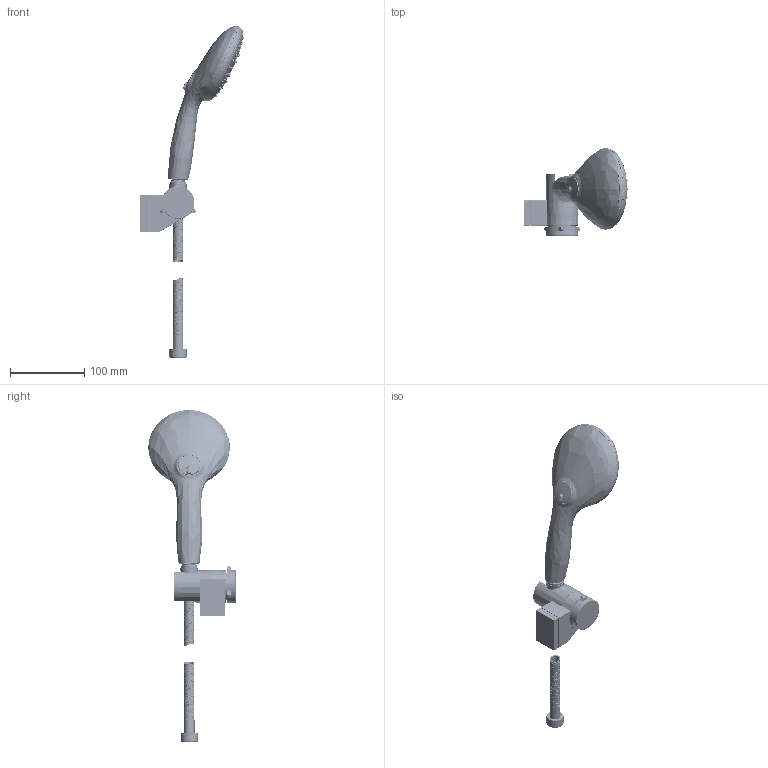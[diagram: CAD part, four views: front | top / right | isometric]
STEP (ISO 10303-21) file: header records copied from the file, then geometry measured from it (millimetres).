
FILE_DESCRIPTION(/* description */ ('Unknown'),/* implementation_level */ '2;1');
FILE_NAME(/* name */ '26182001',/* time_stamp */ '2023-01-31T15:39:55+01:00',/* author */ ('Unknown'),/* organization */ ('GROHE AG'),/* preprocessor_version */ 'ST-DEVELOPER v16.7',/* originating_system */ 'DEX',/* authorisation */ $);
FILE_SCHEMA (('AUTOMOTIVE_DESIGN {1 0 10303 214 3 1 1}'));
Products named in the file (1): 26182001
Bounding box: 140.49 x 117.5 x 447.5 mm (x, y, z)
Volume: 243778.8 mm3; surface area: 195283.3 mm2
Topology: 15 solids, 28 shells, 18073 faces, 44724 edges, 25520 vertices
Faces by surface type: bspline 12402, torus 1883, plane 1604, cylinder 1116, sphere 606, cone 462
Full cylindrical faces by diameter (mm): 0.83 x4, 2.8 x132, 3.7 x66, 4.1 x12, 8.3 x2, 10.8 x2, 12 x2, 14.376 x2, 14.7 x2, 15.1 x1, 15.6 x1, 16 x2, 16.2 x3, 17 x1, 17.996 x4, 18.2 x1, 18.4 x1, 18.631 x2, 19.2 x1, 19.9 x1, 21 x2, 21.2 x4, 22.2 x2, 22.6 x1, 23 x1, 23.8 x1, 30.7 x1, 31 x1, 33 x1, 37.5 x1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
Entity records: 684406 total; most frequent: CARTESIAN_POINT 360252, ORIENTED_EDGE 83892, DIRECTION 42383, EDGE_CURVE 41946, VERTEX_POINT 24789, B_SPLINE_CURVE_WITH_KNOTS 24077, EDGE_LOOP 19373, FACE_BOUND 19373
